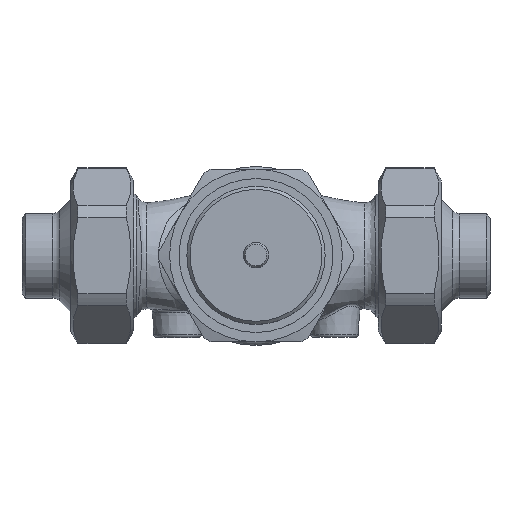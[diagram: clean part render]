
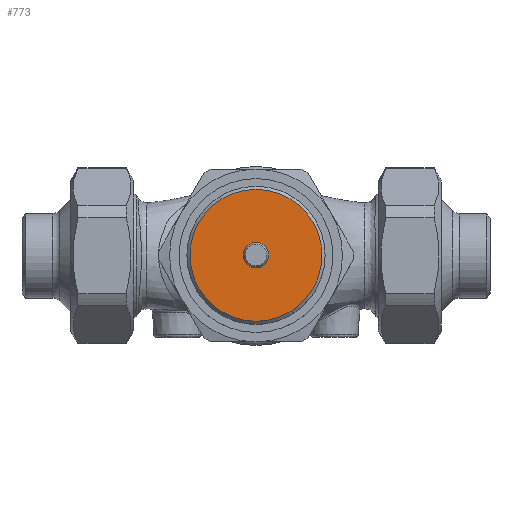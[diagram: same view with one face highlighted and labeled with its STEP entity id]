
A CAD part, top view. The second image highlights one B-rep face of the part: STEP entity #773.
In plain terms, the highlighted planar face has unit normal (0, 0, 1).
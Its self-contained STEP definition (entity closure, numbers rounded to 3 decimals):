
#631=PLANE('',#2851);
#773=ADVANCED_FACE('',(#1016,#1017),#631,.F.);
#1016=FACE_BOUND('',#1263,.T.);
#1017=FACE_BOUND('',#1264,.T.);
#1263=EDGE_LOOP('',(#1771));
#1264=EDGE_LOOP('',(#1772));
#1771=ORIENTED_EDGE('',*,*,#2414,.F.);
#1772=ORIENTED_EDGE('',*,*,#2415,.T.);
#2133=VERTEX_POINT('',#10171);
#2134=VERTEX_POINT('',#10173);
#2414=EDGE_CURVE('',#2133,#2133,#2604,.T.);
#2415=EDGE_CURVE('',#2134,#2134,#2605,.T.);
#2604=CIRCLE('',#2849,4.);
#2605=CIRCLE('',#2850,21.);
#2849=AXIS2_PLACEMENT_3D('',#10170,#3390,#3391);
#2850=AXIS2_PLACEMENT_3D('',#10172,#3392,#3393);
#2851=AXIS2_PLACEMENT_3D('',#10174,#3394,#3395);
#3390=DIRECTION('',(0.,0.,1.));
#3391=DIRECTION('',(-1.,0.,0.));
#3392=DIRECTION('',(0.,0.,1.));
#3393=DIRECTION('',(-1.,0.,0.));
#3394=DIRECTION('',(0.,0.,-1.));
#3395=DIRECTION('',(-1.,0.,0.));
#10170=CARTESIAN_POINT('',(0.,0.,80.6));
#10171=CARTESIAN_POINT('',(-4.,0.,80.6));
#10172=CARTESIAN_POINT('',(0.,0.,80.6));
#10173=CARTESIAN_POINT('',(-21.,0.,80.6));
#10174=CARTESIAN_POINT('',(0.,-11.25,80.6));
